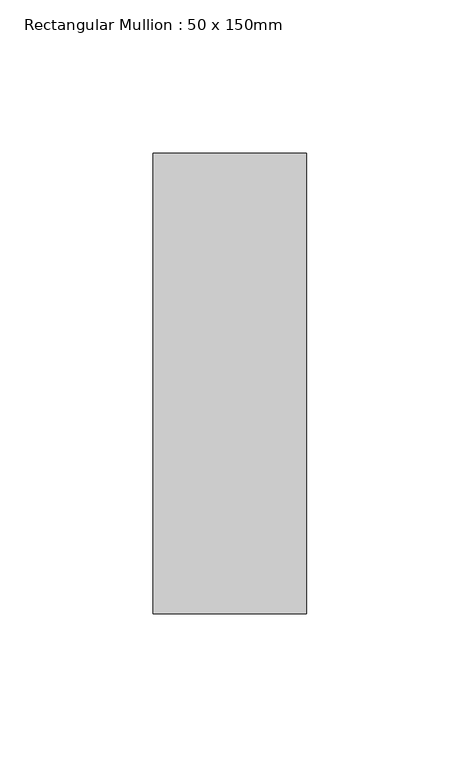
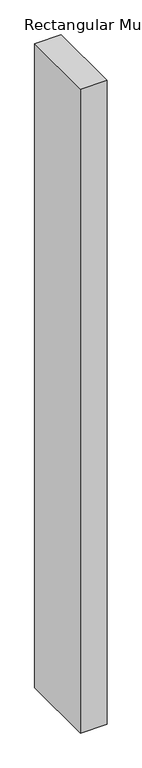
"""IFC4 building model written with IfcOpenShell, lengths in millimetres: member geometry, Rectangular Mullion : 50 x 150mm."""

from ifc_helpers import new_model, si_unit, frame, origin, place, context, project, spatial, polyline, outline, extrude, source, transform, mapped, element, save


def rectangular_mullion_50_x_150mm_8f456225(model_context):
    return source(origin(), model_context, "Body", "SweptSolid", [
        extrude(outline(polyline([(0.0, 75.0), (0.0, -75.0), (-50.0, -75.0), (-50.0, 75.0), (0.0, 75.0)])), frame((0.0, 0.0, -1287.4999998), z_axis=(0.0, 0.0, 1.0), x_axis=(1.0, 0.0, 0.0)), (0.0, 0.0, 1.0), 1287.4999998),
    ])


if __name__ == "__main__":
    model = new_model("IFC4")
    model_context = context("Model", 3, world=origin())
    ifc_project = project(units=[si_unit("LENGTHUNIT", "METRE", prefix="MILLI")], contexts=[model_context])
    site = spatial("IfcSite", under=ifc_project)
    building = spatial("IfcBuilding", under=site)
    placement = place(None, origin())
    rectangular_mullion_50_x_150mm_shape = rectangular_mullion_50_x_150mm_8f456225(model_context)
    element("IfcMember", 1, ObjectType="Rectangular Mullion : 50 x 150mm", at=placement, inside=building, context=model_context, shape_type="MappedRepresentation", body=[
        mapped(rectangular_mullion_50_x_150mm_shape, transform((0.0, 0.0, 0.0), x_axis=(1.0, 0.0, 0.0), y_axis=(0.0, 1.0, 0.0), z_axis=(0.0, 0.0, 1.0))),
    ])
    save(model, "model.ifc")
